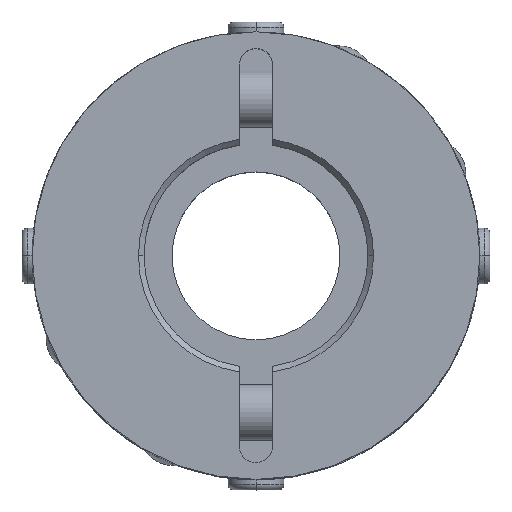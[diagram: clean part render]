
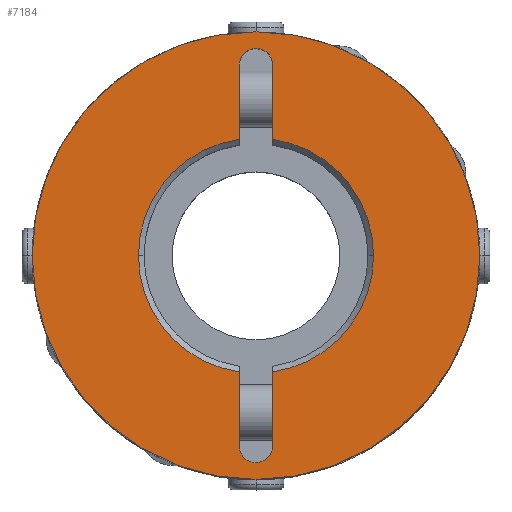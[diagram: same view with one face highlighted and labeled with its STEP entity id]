
A CAD part, top view. The second image highlights one B-rep face of the part: STEP entity #7184.
In plain terms, the highlighted planar face has unit normal (0, 0, 1).
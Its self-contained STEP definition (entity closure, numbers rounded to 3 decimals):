
#2862=CARTESIAN_POINT('',(-1.061,18.061,20.0));
#2863=VERTEX_POINT('',#2862);
#2879=CARTESIAN_POINT('',(1.5,17.,20.0));
#2880=VERTEX_POINT('',#2879);
#2887=CARTESIAN_POINT('',(0.,17.,20.0));
#2888=DIRECTION('',(0.0,0.0,1.));
#2889=DIRECTION('',(0.707,0.707,0.0));
#2890=AXIS2_PLACEMENT_3D('',#2887,#2888,#2889);
#2891=CIRCLE('',#2890,1.5);
#2892=EDGE_CURVE('',#2880,#2863,#2891,.T.);
#2904=CARTESIAN_POINT('',(1.061,-18.061,20.0));
#2905=VERTEX_POINT('',#2904);
#2921=CARTESIAN_POINT('',(-1.5,-17.,20.0));
#2922=VERTEX_POINT('',#2921);
#2929=CARTESIAN_POINT('',(0.0,-17.,20.0));
#2930=DIRECTION('',(0.0,0.0,1.0));
#2931=DIRECTION('',(-0.707,-0.707,0.0));
#2932=AXIS2_PLACEMENT_3D('',#2929,#2930,#2931);
#2933=CIRCLE('',#2932,1.5);
#2934=EDGE_CURVE('',#2922,#2905,#2933,.T.);
#3035=CARTESIAN_POINT('',(-10.5,0.,20.0));
#3036=VERTEX_POINT('',#3035);
#3043=CARTESIAN_POINT('',(-1.5,-10.392,20.0));
#3044=VERTEX_POINT('',#3043);
#3045=CARTESIAN_POINT('',(0.0,0.0,20.0));
#3046=DIRECTION('',(0.0,0.0,1.0));
#3047=DIRECTION('',(-1.0,0.0,0.0));
#3048=AXIS2_PLACEMENT_3D('',#3045,#3046,#3047);
#3049=CIRCLE('',#3048,10.5);
#3050=EDGE_CURVE('',#3036,#3044,#3049,.T.);
#3074=CARTESIAN_POINT('',(10.5,0.,20.0));
#3075=VERTEX_POINT('',#3074);
#3082=CARTESIAN_POINT('',(1.5,10.392,20.0));
#3083=VERTEX_POINT('',#3082);
#3084=CARTESIAN_POINT('',(0.0,0.0,20.0));
#3085=DIRECTION('',(0.0,0.0,1.0));
#3086=DIRECTION('',(1.0,0.0,0.0));
#3087=AXIS2_PLACEMENT_3D('',#3084,#3085,#3086);
#3088=CIRCLE('',#3087,10.5);
#3089=EDGE_CURVE('',#3075,#3083,#3088,.T.);
#3566=CARTESIAN_POINT('',(-20.0,0.,20.0));
#3567=VERTEX_POINT('',#3566);
#3574=CARTESIAN_POINT('',(20.0,0.0,20.0));
#3575=VERTEX_POINT('',#3574);
#3576=CARTESIAN_POINT('',(0.0,0.0,20.0));
#3577=DIRECTION('',(0.0,0.0,-1.0));
#3578=DIRECTION('',(1.0,0.0,0.0));
#3579=AXIS2_PLACEMENT_3D('',#3576,#3577,#3578);
#3580=CIRCLE('',#3579,20.0);
#3581=EDGE_CURVE('',#3567,#3575,#3580,.T.);
#6510=CARTESIAN_POINT('',(0.0,0.0,20.0));
#6511=DIRECTION('',(0.0,0.0,-1.0));
#6512=DIRECTION('',(1.0,0.0,0.0));
#6513=AXIS2_PLACEMENT_3D('',#6510,#6511,#6512);
#6514=CIRCLE('',#6513,20.0);
#6515=EDGE_CURVE('',#3575,#3567,#6514,.T.);
#6995=CARTESIAN_POINT('',(-1.5,17.,20.0));
#6996=VERTEX_POINT('',#6995);
#7003=CARTESIAN_POINT('',(-1.5,10.392,20.0));
#7004=VERTEX_POINT('',#7003);
#7005=CARTESIAN_POINT('',(-1.5,10.392,20.0));
#7006=DIRECTION('',(0.0,1.0,0.0));
#7007=VECTOR('',#7006,6.608);
#7008=LINE('',#7005,#7007);
#7009=EDGE_CURVE('',#7004,#6996,#7008,.T.);
#7084=CARTESIAN_POINT('',(1.5,17.,20.0));
#7085=DIRECTION('',(0.0,-1.0,0.0));
#7086=VECTOR('',#7085,6.608);
#7087=LINE('',#7084,#7086);
#7088=EDGE_CURVE('',#2880,#3083,#7087,.T.);
#7106=CARTESIAN_POINT('',(1.5,-10.392,20.0));
#7107=VERTEX_POINT('',#7106);
#7121=CARTESIAN_POINT('',(0.0,0.0,20.0));
#7122=DIRECTION('',(0.0,0.0,1.0));
#7123=DIRECTION('',(1.0,0.0,0.0));
#7124=AXIS2_PLACEMENT_3D('',#7121,#7122,#7123);
#7125=CIRCLE('',#7124,10.5);
#7126=EDGE_CURVE('',#7107,#3075,#7125,.T.);
#7131=CARTESIAN_POINT('',(1.818,0.,20.0));
#7132=DIRECTION('',(0.0,0.0,1.0));
#7133=DIRECTION('',(1.0,0.0,0.0));
#7134=AXIS2_PLACEMENT_3D('',#7131,#7132,#7133);
#7135=PLANE('',#7134);
#7136=ORIENTED_EDGE('',*,*,#6515,.F.);
#7137=ORIENTED_EDGE('',*,*,#3581,.F.);
#7138=EDGE_LOOP('',(#7136,#7137));
#7139=FACE_OUTER_BOUND('',#7138,.T.);
#7140=ORIENTED_EDGE('',*,*,#7126,.F.);
#7141=CARTESIAN_POINT('',(1.5,-17.,20.0));
#7142=VERTEX_POINT('',#7141);
#7143=CARTESIAN_POINT('',(1.5,-10.392,20.0));
#7144=DIRECTION('',(0.0,-1.0,0.0));
#7145=VECTOR('',#7144,6.608);
#7146=LINE('',#7143,#7145);
#7147=EDGE_CURVE('',#7107,#7142,#7146,.T.);
#7148=ORIENTED_EDGE('',*,*,#7147,.T.);
#7149=CARTESIAN_POINT('',(0.0,-17.,20.0));
#7150=DIRECTION('',(0.0,0.0,1.0));
#7151=DIRECTION('',(-0.707,-0.707,0.0));
#7152=AXIS2_PLACEMENT_3D('',#7149,#7150,#7151);
#7153=CIRCLE('',#7152,1.5);
#7154=EDGE_CURVE('',#2905,#7142,#7153,.T.);
#7155=ORIENTED_EDGE('',*,*,#7154,.F.);
#7156=ORIENTED_EDGE('',*,*,#2934,.F.);
#7157=CARTESIAN_POINT('',(-1.5,-17.,20.0));
#7158=DIRECTION('',(0.0,1.0,0.0));
#7159=VECTOR('',#7158,6.608);
#7160=LINE('',#7157,#7159);
#7161=EDGE_CURVE('',#2922,#3044,#7160,.T.);
#7162=ORIENTED_EDGE('',*,*,#7161,.T.);
#7163=ORIENTED_EDGE('',*,*,#3050,.F.);
#7164=CARTESIAN_POINT('',(0.0,0.0,20.0));
#7165=DIRECTION('',(0.0,0.0,1.0));
#7166=DIRECTION('',(-1.0,0.0,0.0));
#7167=AXIS2_PLACEMENT_3D('',#7164,#7165,#7166);
#7168=CIRCLE('',#7167,10.5);
#7169=EDGE_CURVE('',#7004,#3036,#7168,.T.);
#7170=ORIENTED_EDGE('',*,*,#7169,.F.);
#7171=ORIENTED_EDGE('',*,*,#7009,.T.);
#7172=CARTESIAN_POINT('',(0.,17.,20.0));
#7173=DIRECTION('',(0.0,0.0,1.));
#7174=DIRECTION('',(0.707,0.707,0.0));
#7175=AXIS2_PLACEMENT_3D('',#7172,#7173,#7174);
#7176=CIRCLE('',#7175,1.5);
#7177=EDGE_CURVE('',#2863,#6996,#7176,.T.);
#7178=ORIENTED_EDGE('',*,*,#7177,.F.);
#7179=ORIENTED_EDGE('',*,*,#2892,.F.);
#7180=ORIENTED_EDGE('',*,*,#7088,.T.);
#7181=ORIENTED_EDGE('',*,*,#3089,.F.);
#7182=EDGE_LOOP('',(#7140,#7148,#7155,#7156,#7162,#7163,#7170,#7171,#7178,#7179,#7180,#7181));
#7183=FACE_BOUND('',#7182,.T.);
#7184=ADVANCED_FACE('',(#7139,#7183),#7135,.T.);
